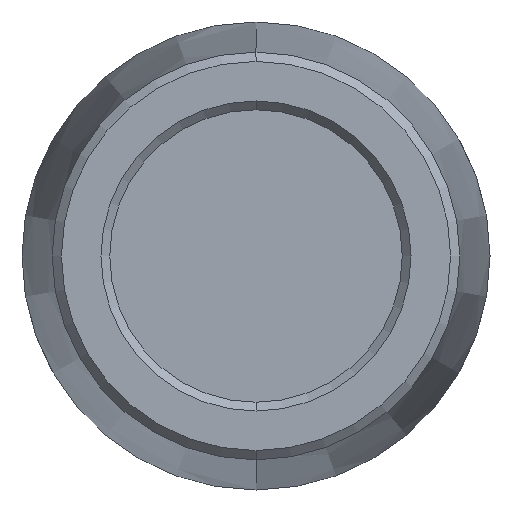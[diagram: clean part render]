
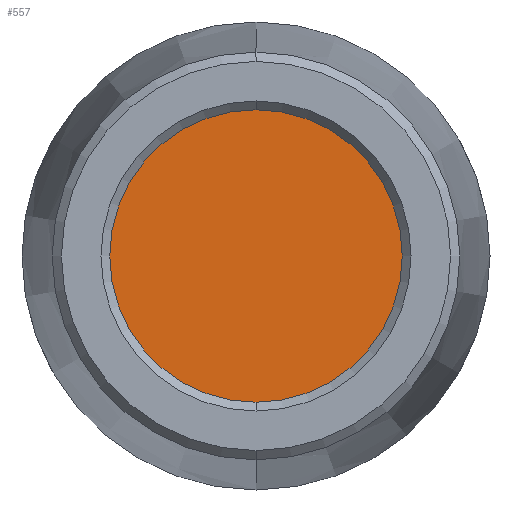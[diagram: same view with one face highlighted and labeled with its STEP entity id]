
A CAD part, front view. The second image highlights one B-rep face of the part: STEP entity #557.
In plain terms, the highlighted planar face has unit normal (0, -1, 0).
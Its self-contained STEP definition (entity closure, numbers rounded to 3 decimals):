
#19 = DIRECTION ( 'NONE',  ( 0., 0., 1. ) ) ;
#87 = CARTESIAN_POINT ( 'NONE',  ( 0., 17., 0. ) ) ;
#106 = DIRECTION ( 'NONE',  ( 0., 0., 1. ) ) ;
#139 = CIRCLE ( 'NONE', #706, 5. ) ;
#150 = CARTESIAN_POINT ( 'NONE',  ( 0., 17., 0. ) ) ;
#156 = DIRECTION ( 'NONE',  ( 0., 1., 0. ) ) ;
#191 = ORIENTED_EDGE ( 'NONE', *, *, #885, .F. ) ;
#197 = AXIS2_PLACEMENT_3D ( 'NONE', #87, #156, #19 ) ;
#274 = VERTEX_POINT ( 'NONE', #386 ) ;
#296 = FACE_OUTER_BOUND ( 'NONE', #628, .T. ) ;
#325 = ORIENTED_EDGE ( 'NONE', *, *, #357, .F. ) ;
#357 = EDGE_CURVE ( 'NONE', #919, #274, #139, .T. ) ;
#386 = CARTESIAN_POINT ( 'NONE',  ( 0., 17., 5. ) ) ;
#435 = CARTESIAN_POINT ( 'NONE',  ( 0., 17., -5. ) ) ;
#451 = PLANE ( 'NONE',  #197 ) ;
#460 = CARTESIAN_POINT ( 'NONE',  ( 0., 17., 0. ) ) ;
#498 = CIRCLE ( 'NONE', #848, 5. ) ;
#527 = DIRECTION ( 'NONE',  ( 0., 1., 0. ) ) ;
#556 = DIRECTION ( 'NONE',  ( 0., 1., 0. ) ) ;
#557 = ADVANCED_FACE ( 'NONE', ( #296 ), #451, .F. ) ;
#600 = DIRECTION ( 'NONE',  ( 0., 0., 1. ) ) ;
#628 = EDGE_LOOP ( 'NONE', ( #325, #191 ) ) ;
#706 = AXIS2_PLACEMENT_3D ( 'NONE', #460, #556, #106 ) ;
#848 = AXIS2_PLACEMENT_3D ( 'NONE', #150, #527, #600 ) ;
#885 = EDGE_CURVE ( 'NONE', #274, #919, #498, .T. ) ;
#919 = VERTEX_POINT ( 'NONE', #435 ) ;
